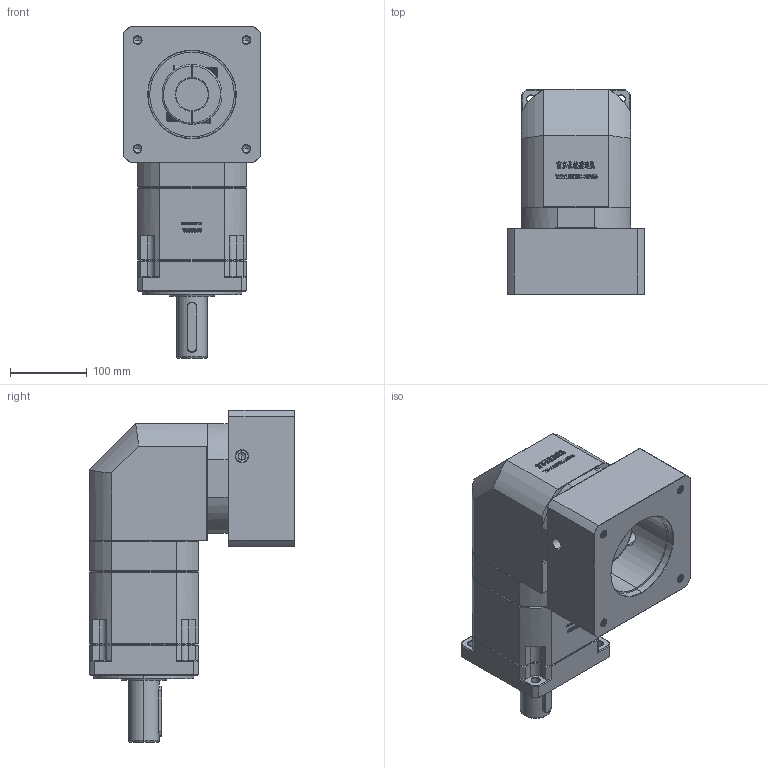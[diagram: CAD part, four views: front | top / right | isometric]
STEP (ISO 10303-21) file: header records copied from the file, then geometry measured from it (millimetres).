
FILE_DESCRIPTION (( 'STEP AP214' ), '1' );
FILE_NAME ('ZBR142A-D40-L3-42-114.3-200-M12.step', '2023-03-18T09:24:41', ( '' ), ( '' ), 'SwSTEP 2.0', 'SolidWorks 2016', '' );
FILE_SCHEMA (( 'AUTOMOTIVE_DESIGN' ));
Length unit declared in the file: millimetre
Products named in the file (1): ZBR142A-D40-L3-42-114.3-200-M12
Bounding box: 178 x 267 x 431.7 mm (x, y, z)
Volume: 8297085.7 mm3; surface area: 503312.6 mm2
Topology: 6 solids, 6 shells, 2924 faces, 7761 edges, 4986 vertices
Faces by surface type: plane 1552, bspline 592, cylinder 418, cone 340, torus 22
Entity records: 163063 total; most frequent: CARTESIAN_POINT 62965, ORIENTED_EDGE 15462, DIRECTION 11720, EDGE_CURVE 7731, LINE 5234, VECTOR 5234, VERTEX_POINT 4986, AXIS2_PLACEMENT_3D 3243
